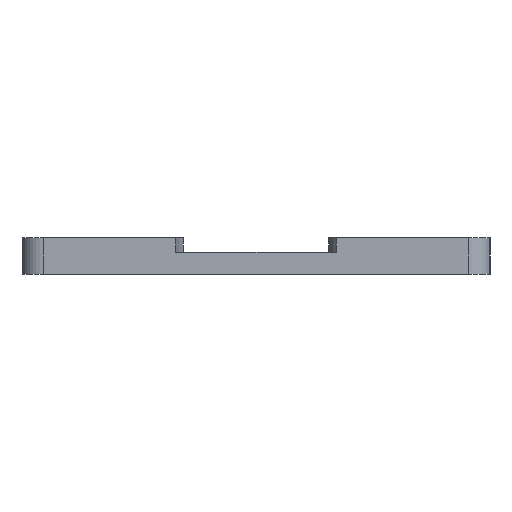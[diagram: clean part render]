
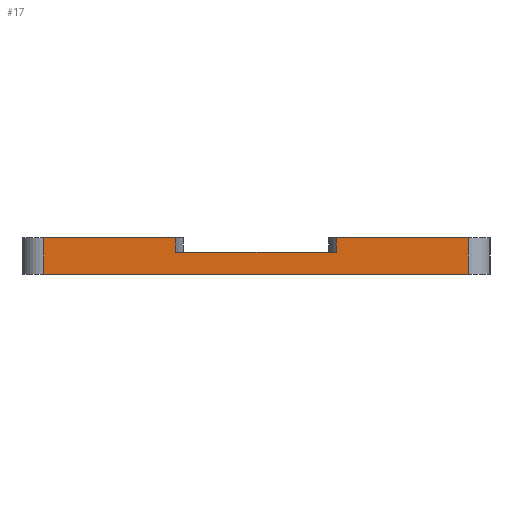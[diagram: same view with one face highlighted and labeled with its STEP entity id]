
A CAD part, left-side view. The second image highlights one B-rep face of the part: STEP entity #17.
In plain terms, the highlighted planar face has unit normal (-1, 0, 0).
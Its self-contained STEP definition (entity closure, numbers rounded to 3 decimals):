
#17 = ADVANCED_FACE('',(#18),#32,.F.);
#18 = FACE_BOUND('',#19,.F.);
#19 = EDGE_LOOP('',(#20,#55,#83,#111,#139,#167,#193,#220));
#20 = ORIENTED_EDGE('',*,*,#21,.F.);
#21 = EDGE_CURVE('',#22,#24,#26,.T.);
#22 = VERTEX_POINT('',#23);
#23 = CARTESIAN_POINT('',(-87.5,-29.,5.));
#24 = VERTEX_POINT('',#25);
#25 = CARTESIAN_POINT('',(-87.5,-11.,5.));
#26 = SURFACE_CURVE('',#27,(#31,#43),.PCURVE_S1.);
#27 = LINE('',#28,#29);
#28 = CARTESIAN_POINT('',(-87.5,-32.,5.));
#29 = VECTOR('',#30,1.);
#30 = DIRECTION('',(0.,1.,0.));
#31 = PCURVE('',#32,#37);
#32 = PLANE('',#33);
#33 = AXIS2_PLACEMENT_3D('',#34,#35,#36);
#34 = CARTESIAN_POINT('',(-87.5,-32.,0.));
#35 = DIRECTION('',(1.,0.,0.));
#36 = DIRECTION('',(0.,0.,1.));
#37 = DEFINITIONAL_REPRESENTATION('',(#38),#42);
#38 = LINE('',#39,#40);
#39 = CARTESIAN_POINT('',(5.,0.));
#40 = VECTOR('',#41,1.);
#41 = DIRECTION('',(0.,-1.));
#42 = ( GEOMETRIC_REPRESENTATION_CONTEXT(2) 
PARAMETRIC_REPRESENTATION_CONTEXT() REPRESENTATION_CONTEXT('2D SPACE',''
  ) );
#43 = PCURVE('',#44,#49);
#44 = PLANE('',#45);
#45 = AXIS2_PLACEMENT_3D('',#46,#47,#48);
#46 = CARTESIAN_POINT('',(-87.5,-32.,5.));
#47 = DIRECTION('',(0.,0.,1.));
#48 = DIRECTION('',(1.,0.,0.));
#49 = DEFINITIONAL_REPRESENTATION('',(#50),#54);
#50 = LINE('',#51,#52);
#51 = CARTESIAN_POINT('',(0.,0.));
#52 = VECTOR('',#53,1.);
#53 = DIRECTION('',(0.,1.));
#54 = ( GEOMETRIC_REPRESENTATION_CONTEXT(2) 
PARAMETRIC_REPRESENTATION_CONTEXT() REPRESENTATION_CONTEXT('2D SPACE',''
  ) );
#55 = ORIENTED_EDGE('',*,*,#56,.F.);
#56 = EDGE_CURVE('',#57,#22,#59,.T.);
#57 = VERTEX_POINT('',#58);
#58 = CARTESIAN_POINT('',(-87.5,-29.,0.));
#59 = SURFACE_CURVE('',#60,(#64,#71),.PCURVE_S1.);
#60 = LINE('',#61,#62);
#61 = CARTESIAN_POINT('',(-87.5,-29.,0.));
#62 = VECTOR('',#63,1.);
#63 = DIRECTION('',(0.,0.,1.));
#64 = PCURVE('',#32,#65);
#65 = DEFINITIONAL_REPRESENTATION('',(#66),#70);
#66 = LINE('',#67,#68);
#67 = CARTESIAN_POINT('',(0.,-3.));
#68 = VECTOR('',#69,1.);
#69 = DIRECTION('',(1.,0.));
#70 = ( GEOMETRIC_REPRESENTATION_CONTEXT(2) 
PARAMETRIC_REPRESENTATION_CONTEXT() REPRESENTATION_CONTEXT('2D SPACE',''
  ) );
#71 = PCURVE('',#72,#77);
#72 = CYLINDRICAL_SURFACE('',#73,3.);
#73 = AXIS2_PLACEMENT_3D('',#74,#75,#76);
#74 = CARTESIAN_POINT('',(-84.5,-29.,0.));
#75 = DIRECTION('',(0.,0.,1.));
#76 = DIRECTION('',(-1.,-0.,0.));
#77 = DEFINITIONAL_REPRESENTATION('',(#78),#82);
#78 = LINE('',#79,#80);
#79 = CARTESIAN_POINT('',(0.,0.));
#80 = VECTOR('',#81,1.);
#81 = DIRECTION('',(0.,1.));
#82 = ( GEOMETRIC_REPRESENTATION_CONTEXT(2) 
PARAMETRIC_REPRESENTATION_CONTEXT() REPRESENTATION_CONTEXT('2D SPACE',''
  ) );
#83 = ORIENTED_EDGE('',*,*,#84,.T.);
#84 = EDGE_CURVE('',#57,#85,#87,.T.);
#85 = VERTEX_POINT('',#86);
#86 = CARTESIAN_POINT('',(-87.5,29.,0.));
#87 = SURFACE_CURVE('',#88,(#92,#99),.PCURVE_S1.);
#88 = LINE('',#89,#90);
#89 = CARTESIAN_POINT('',(-87.5,-32.,0.));
#90 = VECTOR('',#91,1.);
#91 = DIRECTION('',(0.,1.,0.));
#92 = PCURVE('',#32,#93);
#93 = DEFINITIONAL_REPRESENTATION('',(#94),#98);
#94 = LINE('',#95,#96);
#95 = CARTESIAN_POINT('',(0.,0.));
#96 = VECTOR('',#97,1.);
#97 = DIRECTION('',(0.,-1.));
#98 = ( GEOMETRIC_REPRESENTATION_CONTEXT(2) 
PARAMETRIC_REPRESENTATION_CONTEXT() REPRESENTATION_CONTEXT('2D SPACE',''
  ) );
#99 = PCURVE('',#100,#105);
#100 = PLANE('',#101);
#101 = AXIS2_PLACEMENT_3D('',#102,#103,#104);
#102 = CARTESIAN_POINT('',(-87.5,-32.,0.));
#103 = DIRECTION('',(0.,0.,1.));
#104 = DIRECTION('',(1.,0.,0.));
#105 = DEFINITIONAL_REPRESENTATION('',(#106),#110);
#106 = LINE('',#107,#108);
#107 = CARTESIAN_POINT('',(0.,0.));
#108 = VECTOR('',#109,1.);
#109 = DIRECTION('',(0.,1.));
#110 = ( GEOMETRIC_REPRESENTATION_CONTEXT(2) 
PARAMETRIC_REPRESENTATION_CONTEXT() REPRESENTATION_CONTEXT('2D SPACE',''
  ) );
#111 = ORIENTED_EDGE('',*,*,#112,.T.);
#112 = EDGE_CURVE('',#85,#113,#115,.T.);
#113 = VERTEX_POINT('',#114);
#114 = CARTESIAN_POINT('',(-87.5,29.,5.));
#115 = SURFACE_CURVE('',#116,(#120,#127),.PCURVE_S1.);
#116 = LINE('',#117,#118);
#117 = CARTESIAN_POINT('',(-87.5,29.,0.));
#118 = VECTOR('',#119,1.);
#119 = DIRECTION('',(0.,0.,1.));
#120 = PCURVE('',#32,#121);
#121 = DEFINITIONAL_REPRESENTATION('',(#122),#126);
#122 = LINE('',#123,#124);
#123 = CARTESIAN_POINT('',(0.,-61.));
#124 = VECTOR('',#125,1.);
#125 = DIRECTION('',(1.,0.));
#126 = ( GEOMETRIC_REPRESENTATION_CONTEXT(2) 
PARAMETRIC_REPRESENTATION_CONTEXT() REPRESENTATION_CONTEXT('2D SPACE',''
  ) );
#127 = PCURVE('',#128,#133);
#128 = CYLINDRICAL_SURFACE('',#129,3.);
#129 = AXIS2_PLACEMENT_3D('',#130,#131,#132);
#130 = CARTESIAN_POINT('',(-84.5,29.,0.));
#131 = DIRECTION('',(0.,0.,1.));
#132 = DIRECTION('',(-1.,-0.,0.));
#133 = DEFINITIONAL_REPRESENTATION('',(#134),#138);
#134 = LINE('',#135,#136);
#135 = CARTESIAN_POINT('',(-0.,0.));
#136 = VECTOR('',#137,1.);
#137 = DIRECTION('',(-0.,1.));
#138 = ( GEOMETRIC_REPRESENTATION_CONTEXT(2) 
PARAMETRIC_REPRESENTATION_CONTEXT() REPRESENTATION_CONTEXT('2D SPACE',''
  ) );
#139 = ORIENTED_EDGE('',*,*,#140,.F.);
#140 = EDGE_CURVE('',#141,#113,#143,.T.);
#141 = VERTEX_POINT('',#142);
#142 = CARTESIAN_POINT('',(-87.5,11.,5.));
#143 = SURFACE_CURVE('',#144,(#148,#155),.PCURVE_S1.);
#144 = LINE('',#145,#146);
#145 = CARTESIAN_POINT('',(-87.5,-32.,5.));
#146 = VECTOR('',#147,1.);
#147 = DIRECTION('',(0.,1.,0.));
#148 = PCURVE('',#32,#149);
#149 = DEFINITIONAL_REPRESENTATION('',(#150),#154);
#150 = LINE('',#151,#152);
#151 = CARTESIAN_POINT('',(5.,0.));
#152 = VECTOR('',#153,1.);
#153 = DIRECTION('',(0.,-1.));
#154 = ( GEOMETRIC_REPRESENTATION_CONTEXT(2) 
PARAMETRIC_REPRESENTATION_CONTEXT() REPRESENTATION_CONTEXT('2D SPACE',''
  ) );
#155 = PCURVE('',#156,#161);
#156 = PLANE('',#157);
#157 = AXIS2_PLACEMENT_3D('',#158,#159,#160);
#158 = CARTESIAN_POINT('',(-87.5,-32.,5.));
#159 = DIRECTION('',(0.,0.,1.));
#160 = DIRECTION('',(1.,0.,0.));
#161 = DEFINITIONAL_REPRESENTATION('',(#162),#166);
#162 = LINE('',#163,#164);
#163 = CARTESIAN_POINT('',(0.,0.));
#164 = VECTOR('',#165,1.);
#165 = DIRECTION('',(0.,1.));
#166 = ( GEOMETRIC_REPRESENTATION_CONTEXT(2) 
PARAMETRIC_REPRESENTATION_CONTEXT() REPRESENTATION_CONTEXT('2D SPACE',''
  ) );
#167 = ORIENTED_EDGE('',*,*,#168,.T.);
#168 = EDGE_CURVE('',#141,#169,#171,.T.);
#169 = VERTEX_POINT('',#170);
#170 = CARTESIAN_POINT('',(-87.5,11.,3.));
#171 = SURFACE_CURVE('',#172,(#176,#182),.PCURVE_S1.);
#172 = LINE('',#173,#174);
#173 = CARTESIAN_POINT('',(-87.5,11.,3.));
#174 = VECTOR('',#175,1.);
#175 = DIRECTION('',(-0.,-0.,-1.));
#176 = PCURVE('',#32,#177);
#177 = DEFINITIONAL_REPRESENTATION('',(#178),#181);
#178 = B_SPLINE_CURVE_WITH_KNOTS('',1,(#179,#180),.UNSPECIFIED.,.F.,.F.,
  (2,2),(-2.5,0.),.PIECEWISE_BEZIER_KNOTS.);
#179 = CARTESIAN_POINT('',(5.5,-43.));
#180 = CARTESIAN_POINT('',(3.,-43.));
#181 = ( GEOMETRIC_REPRESENTATION_CONTEXT(2) 
PARAMETRIC_REPRESENTATION_CONTEXT() REPRESENTATION_CONTEXT('2D SPACE',''
  ) );
#182 = PCURVE('',#183,#188);
#183 = CYLINDRICAL_SURFACE('',#184,11.);
#184 = AXIS2_PLACEMENT_3D('',#185,#186,#187);
#185 = CARTESIAN_POINT('',(-87.5,0.,3.));
#186 = DIRECTION('',(-0.,-0.,-1.));
#187 = DIRECTION('',(1.,0.,0.));
#188 = DEFINITIONAL_REPRESENTATION('',(#189),#192);
#189 = B_SPLINE_CURVE_WITH_KNOTS('',1,(#190,#191),.UNSPECIFIED.,.F.,.F.,
  (2,2),(-2.5,0.),.PIECEWISE_BEZIER_KNOTS.);
#190 = CARTESIAN_POINT('',(-1.571,-2.5));
#191 = CARTESIAN_POINT('',(-1.571,0.));
#192 = ( GEOMETRIC_REPRESENTATION_CONTEXT(2) 
PARAMETRIC_REPRESENTATION_CONTEXT() REPRESENTATION_CONTEXT('2D SPACE',''
  ) );
#193 = ORIENTED_EDGE('',*,*,#194,.T.);
#194 = EDGE_CURVE('',#169,#195,#197,.T.);
#195 = VERTEX_POINT('',#196);
#196 = CARTESIAN_POINT('',(-87.5,-11.,3.));
#197 = SURFACE_CURVE('',#198,(#202,#208),.PCURVE_S1.);
#198 = LINE('',#199,#200);
#199 = CARTESIAN_POINT('',(-87.5,-16.,3.));
#200 = VECTOR('',#201,1.);
#201 = DIRECTION('',(0.,-1.,0.));
#202 = PCURVE('',#32,#203);
#203 = DEFINITIONAL_REPRESENTATION('',(#204),#207);
#204 = B_SPLINE_CURVE_WITH_KNOTS('',1,(#205,#206),.UNSPECIFIED.,.F.,.F.,
  (2,2),(-27.,-5.),.PIECEWISE_BEZIER_KNOTS.);
#205 = CARTESIAN_POINT('',(3.,-43.));
#206 = CARTESIAN_POINT('',(3.,-21.));
#207 = ( GEOMETRIC_REPRESENTATION_CONTEXT(2) 
PARAMETRIC_REPRESENTATION_CONTEXT() REPRESENTATION_CONTEXT('2D SPACE',''
  ) );
#208 = PCURVE('',#209,#214);
#209 = PLANE('',#210);
#210 = AXIS2_PLACEMENT_3D('',#211,#212,#213);
#211 = CARTESIAN_POINT('',(-87.5,0.,3.));
#212 = DIRECTION('',(0.,0.,1.));
#213 = DIRECTION('',(1.,0.,-0.));
#214 = DEFINITIONAL_REPRESENTATION('',(#215),#219);
#215 = LINE('',#216,#217);
#216 = CARTESIAN_POINT('',(0.,-16.));
#217 = VECTOR('',#218,1.);
#218 = DIRECTION('',(0.,-1.));
#219 = ( GEOMETRIC_REPRESENTATION_CONTEXT(2) 
PARAMETRIC_REPRESENTATION_CONTEXT() REPRESENTATION_CONTEXT('2D SPACE',''
  ) );
#220 = ORIENTED_EDGE('',*,*,#221,.F.);
#221 = EDGE_CURVE('',#24,#195,#222,.T.);
#222 = SURFACE_CURVE('',#223,(#227,#233),.PCURVE_S1.);
#223 = LINE('',#224,#225);
#224 = CARTESIAN_POINT('',(-87.5,-11.,3.));
#225 = VECTOR('',#226,1.);
#226 = DIRECTION('',(-0.,-0.,-1.));
#227 = PCURVE('',#32,#228);
#228 = DEFINITIONAL_REPRESENTATION('',(#229),#232);
#229 = B_SPLINE_CURVE_WITH_KNOTS('',1,(#230,#231),.UNSPECIFIED.,.F.,.F.,
  (2,2),(-2.5,0.),.PIECEWISE_BEZIER_KNOTS.);
#230 = CARTESIAN_POINT('',(5.5,-21.));
#231 = CARTESIAN_POINT('',(3.,-21.));
#232 = ( GEOMETRIC_REPRESENTATION_CONTEXT(2) 
PARAMETRIC_REPRESENTATION_CONTEXT() REPRESENTATION_CONTEXT('2D SPACE',''
  ) );
#233 = PCURVE('',#234,#239);
#234 = CYLINDRICAL_SURFACE('',#235,11.);
#235 = AXIS2_PLACEMENT_3D('',#236,#237,#238);
#236 = CARTESIAN_POINT('',(-87.5,0.,3.));
#237 = DIRECTION('',(-0.,-0.,-1.));
#238 = DIRECTION('',(1.,0.,0.));
#239 = DEFINITIONAL_REPRESENTATION('',(#240),#243);
#240 = B_SPLINE_CURVE_WITH_KNOTS('',1,(#241,#242),.UNSPECIFIED.,.F.,.F.,
  (2,2),(-2.5,0.),.PIECEWISE_BEZIER_KNOTS.);
#241 = CARTESIAN_POINT('',(-4.712,-2.5));
#242 = CARTESIAN_POINT('',(-4.712,0.));
#243 = ( GEOMETRIC_REPRESENTATION_CONTEXT(2) 
PARAMETRIC_REPRESENTATION_CONTEXT() REPRESENTATION_CONTEXT('2D SPACE',''
  ) );
